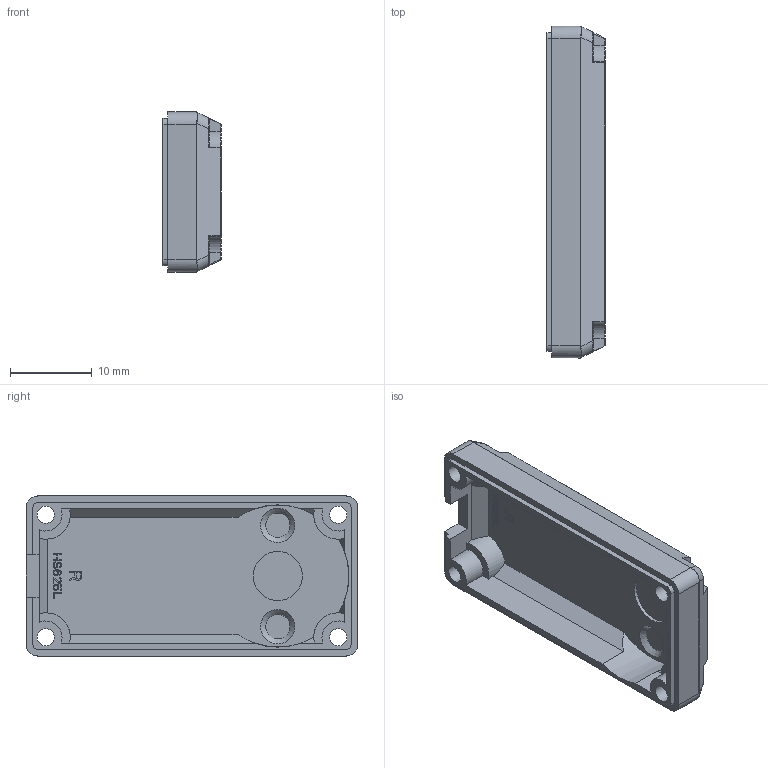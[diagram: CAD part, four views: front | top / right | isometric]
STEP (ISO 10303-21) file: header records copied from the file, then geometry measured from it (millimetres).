
FILE_DESCRIPTION(('Open CASCADE Model'),'2;1');
FILE_NAME('Open CASCADE Shape Model','2026-11-24T19:57:39',('Author'),( 'Open CASCADE'),'Open CASCADE STEP processor 7.8','Open CASCADE 7.8' ,'Unknown');
FILE_SCHEMA(('AUTOMOTIVE_DESIGN { 1 0 10303 214 1 1 1 1 }'));
Length unit declared in the file: millimetre
Products named in the file (1): Open CASCADE STEP translator 7.8 116
Bounding box: 7.1 x 40.6 x 19.6 mm (x, y, z)
Volume: 1876.8 mm3; surface area: 2944.5 mm2
Topology: 1 solids, 1 shells, 398 faces, 1080 edges, 696 vertices
Faces by surface type: plane 288, cylinder 70, torus 32, sphere 6, cone 2
Full cylindrical faces by diameter (mm): 2.1 x4, 6 x1
Entity records: 27662 total; most frequent: CARTESIAN_POINT 6268, DIRECTION 3857, LINE 2762, VECTOR 2762, ORIENTED_EDGE 2160, PCURVE 2160, DEFINITIONAL_REPRESENTATION 2160, EDGE_CURVE 1080
